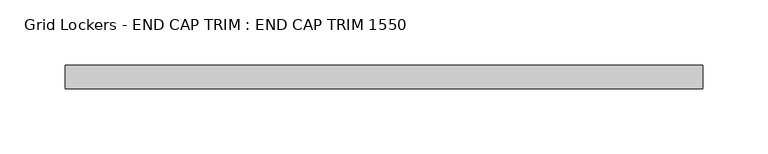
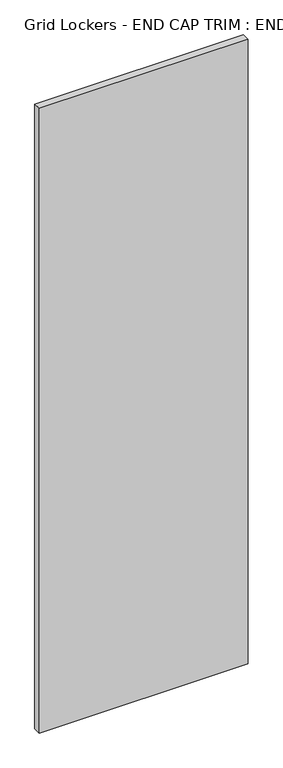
"""IFC4 building model written with IfcOpenShell, lengths in millimetres: furniture geometry, Grid Lockers - END CAP TRIM : END CAP TRIM 1550."""

from ifc_helpers import new_model, si_unit, origin, origin_with_axes, place, context, project, spatial, polyline, outline, extrude, source, transform, mapped, element, save


def grid_lockers_end_cap_trim_end_cap_trim_1550_19a85bd9(model_context):
    return source(origin(), model_context, "Body", "SweptSolid", [
        extrude(outline(polyline([(490.0, -18.0), (0.0, -18.0), (0.0, 0.0), (490.0, 0.0), (490.0, -18.0)])), origin_with_axes(), (0.0, 0.0, 1.0), 1550.0),
    ])


if __name__ == "__main__":
    model = new_model("IFC4")
    model_context = context("Model", 3, world=origin())
    ifc_project = project(units=[si_unit("LENGTHUNIT", "METRE", prefix="MILLI")], contexts=[model_context])
    site = spatial("IfcSite", under=ifc_project)
    building = spatial("IfcBuilding", under=site)
    placement = place(None, origin())
    grid_lockers_end_cap_trim_end_cap_trim_1550_shape = grid_lockers_end_cap_trim_end_cap_trim_1550_19a85bd9(model_context)
    element("IfcFurniture", 1, ObjectType="Grid Lockers - END CAP TRIM : END CAP TRIM 1550", at=placement, inside=building, context=model_context, shape_type="MappedRepresentation", body=[
        mapped(grid_lockers_end_cap_trim_end_cap_trim_1550_shape, transform((0.0, 0.0, 0.0), x_axis=(1.0, 0.0, 0.0), y_axis=(0.0, 1.0, 0.0), z_axis=(0.0, 0.0, 1.0))),
    ])
    save(model, "model.ifc")
